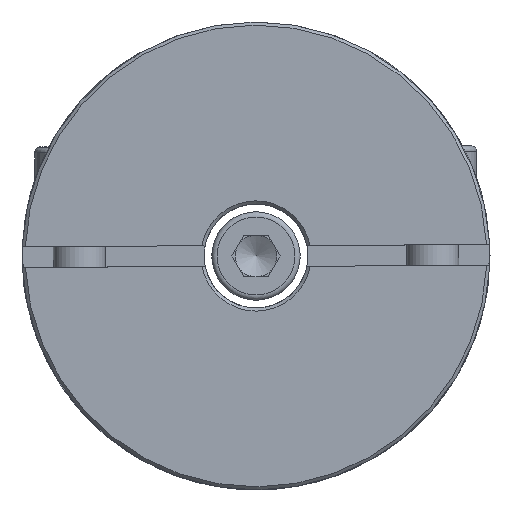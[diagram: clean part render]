
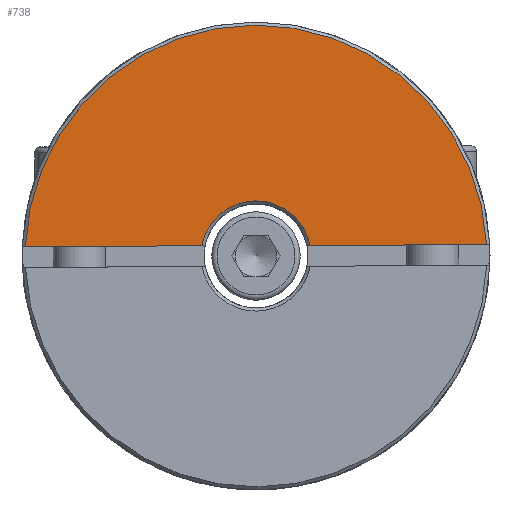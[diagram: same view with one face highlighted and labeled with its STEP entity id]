
A CAD part, left-side view. The second image highlights one B-rep face of the part: STEP entity #738.
In plain terms, the highlighted planar face has unit normal (-1, 0, 0) as drawn and (1, 0, 0) by its records, which use the part's own axes.
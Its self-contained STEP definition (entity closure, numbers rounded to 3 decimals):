
#738 = ADVANCED_FACE( '', ( #1109 ), #1110, .T. );
#1109 = FACE_OUTER_BOUND( '', #1335, .T. );
#1110 = PLANE( '', #1336 );
#1335 = EDGE_LOOP( '', ( #1649, #1650, #1651, #1652 ) );
#1336 = AXIS2_PLACEMENT_3D( '', #1653, #1654, #1655 );
#1649 = ORIENTED_EDGE( '', *, *, #2088, .F. );
#1650 = ORIENTED_EDGE( '', *, *, #2081, .T. );
#1651 = ORIENTED_EDGE( '', *, *, #2069, .F. );
#1652 = ORIENTED_EDGE( '', *, *, #2086, .T. );
#1653 = CARTESIAN_POINT( '', ( 19.5, 0., 22.5 ) );
#1654 = DIRECTION( '', ( 1., 0., 0. ) );
#1655 = DIRECTION( '', ( 0., 0., -1. ) );
#2069 = EDGE_CURVE( '', #2314, #2315, #2316, .T. );
#2081 = EDGE_CURVE( '', #2337, #2315, #2338, .T. );
#2086 = EDGE_CURVE( '', #2314, #2344, #2346, .F. );
#2088 = EDGE_CURVE( '', #2337, #2344, #2348, .T. );
#2314 = VERTEX_POINT( '', #2466 );
#2315 = VERTEX_POINT( '', #2467 );
#2316 = LINE( '', #2468, #2469 );
#2337 = VERTEX_POINT( '', #2500 );
#2338 = CIRCLE( '', #2501, 22.2 );
#2344 = VERTEX_POINT( '', #2510 );
#2346 = CIRCLE( '', #2515, 5.3 );
#2348 = LINE( '', #2518, #2519 );
#2466 = CARTESIAN_POINT( '', ( 19.5, -5.205, 1. ) );
#2467 = CARTESIAN_POINT( '', ( 19.5, -22.177, 1. ) );
#2468 = CARTESIAN_POINT( '', ( 19.5, 0., 1. ) );
#2469 = VECTOR( '', #2956, 1000. );
#2500 = CARTESIAN_POINT( '', ( 19.5, 22.177, 1. ) );
#2501 = AXIS2_PLACEMENT_3D( '', #2976, #2977, #2978 );
#2510 = CARTESIAN_POINT( '', ( 19.5, 5.205, 1. ) );
#2515 = AXIS2_PLACEMENT_3D( '', #2985, #2986, #2987 );
#2518 = CARTESIAN_POINT( '', ( 19.5, 0., 1. ) );
#2519 = VECTOR( '', #2989, 1000. );
#2956 = DIRECTION( '', ( 0., -1., 0. ) );
#2976 = CARTESIAN_POINT( '', ( 19.5, 0., 0. ) );
#2977 = DIRECTION( '', ( 1., 0., 0. ) );
#2978 = DIRECTION( '', ( 0., 0., -1. ) );
#2985 = CARTESIAN_POINT( '', ( 19.5, 0., 0. ) );
#2986 = DIRECTION( '', ( 1., 0., 0. ) );
#2987 = DIRECTION( '', ( 0., 0., -1. ) );
#2989 = DIRECTION( '', ( 0., -1., 0. ) );
